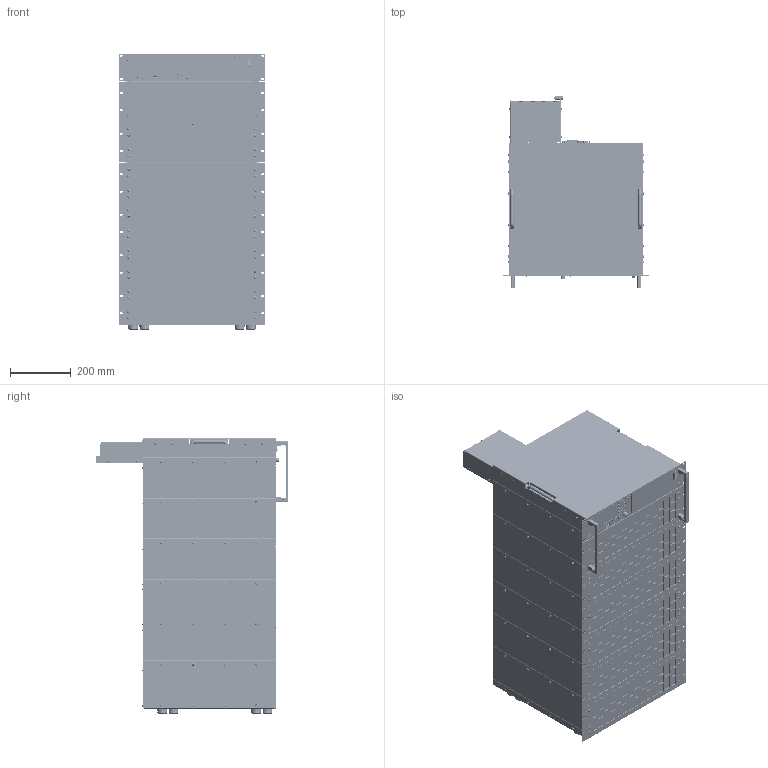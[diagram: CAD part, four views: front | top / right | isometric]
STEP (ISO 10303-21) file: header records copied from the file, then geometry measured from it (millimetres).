
FILE_DESCRIPTION(('STEP AP214'),'1');
FILE_NAME('PLI_M40_19Z_20HE_FKS40_12_SM12_BRB_3D_01.step','2019-02-22T09:29:30',(' '),(' '),'Spatial InterOp 3D',' ',' ');
FILE_SCHEMA(('AUTOMOTIVE_DESIGN { 1 0 10303 214 1 1 1 1 }'));
Length unit declared in the file: millimetre
Products named in the file (1): 1
Bounding box: 482.6 x 631.75 x 906.13 mm (x, y, z)
Volume: 57969841.2 mm3; surface area: 9614722.2 mm2
Topology: 403 solids, 2686 shells, 28321 faces, 80394 edges, 55025 vertices
Faces by surface type: plane 15386, cone 7516, cylinder 4625, sphere 434, torus 332, bspline 26, extrusion 2
Entity records: 1177530 total; most frequent: CARTESIAN_POINT 171863, DIRECTION 168849, ORIENTED_EDGE 144720, EDGE_CURVE 79458, AXIS2_PLACEMENT_3D 58158, VERTEX_POINT 53888, VECTOR 52533, LINE 52531
